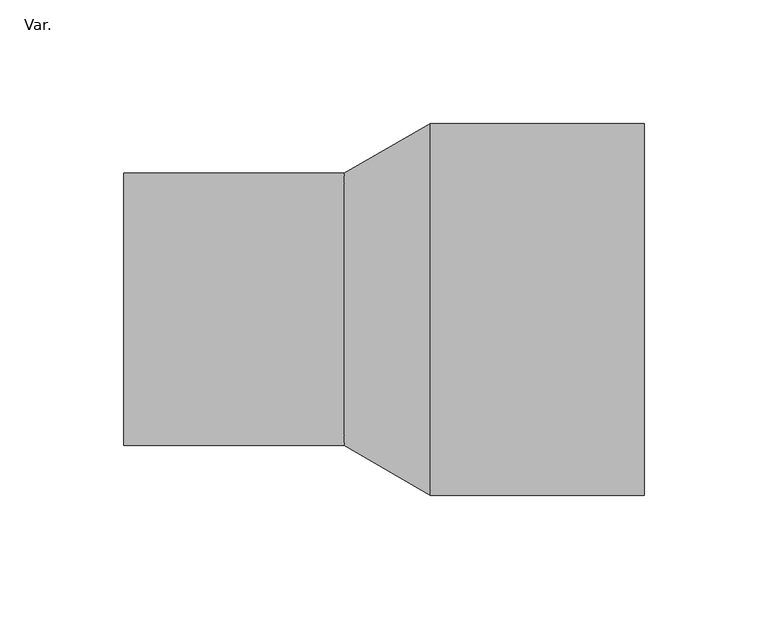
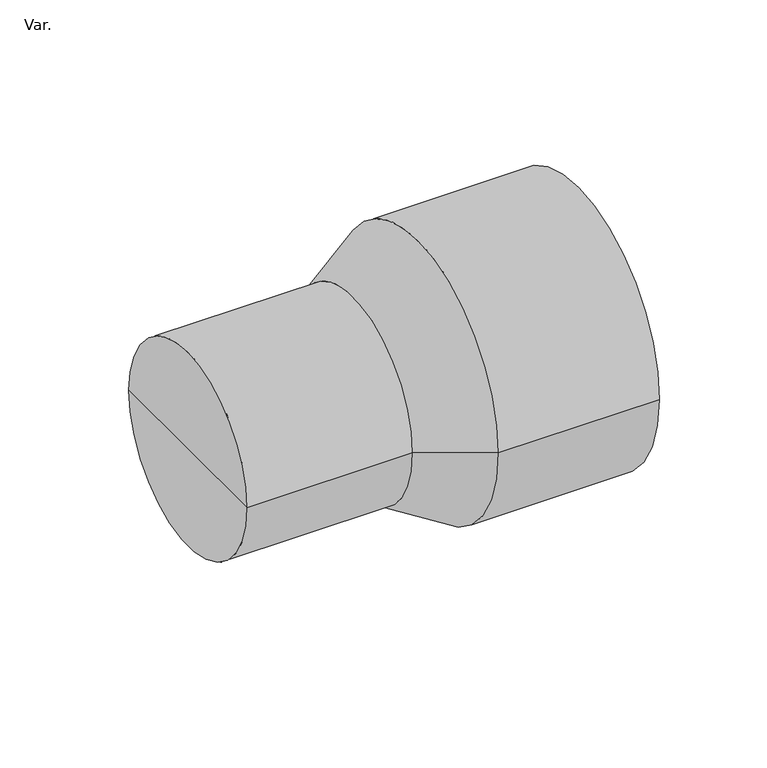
"""IFC4 building model written with IfcOpenShell, lengths in millimetres: pipe fitting geometry, PIF_HDPE retraction socket_Akatherm : Var.."""

import ifcopenshell
import ifcopenshell.guid

model = None  # the IFC model being written
_history = None  # IfcOwnerHistory: only IFC2X3 demands one
_inside = {}  # id of a spatial element -> (the spatial element, [elements in it])
_under = {}  # id of a project, library or spatial element -> (it, [spatial elements below it])
_declared = {}  # id of a project -> (the project, [libraries it declares])
_typed = {}  # id of a type object -> (the type object, [elements of that type])
_made_of = {}  # id of a material, layer set ... -> (it, [elements and type objects made of it])


def new_model(schema):
    """Start an empty IFC model of exactly this schema.

    Asked for "IFC4X3", IfcOpenShell would pick the latest addendum, in which some entities
    have other attributes; the version numbers below select the first issue.
    IFC2X3 requires an IfcOwnerHistory on every rooted entity: one is made here for all.
    """
    global model, _history
    if schema == "IFC4X3":
        model = ifcopenshell.file(schema_version=(4, 3, 0, 0))
    else:
        model = ifcopenshell.file(schema=schema)
    _inside.clear()
    _under.clear()
    _declared.clear()
    _typed.clear()
    _made_of.clear()
    _history = None
    if model.schema == "IFC2X3":
        org = make("IfcOrganization", Name="unknown")
        user = make(
            "IfcPersonAndOrganization",
            ThePerson=make("IfcPerson", FamilyName="unknown"),
            TheOrganization=org,
        )
        app = make(
            "IfcApplication",
            ApplicationDeveloper=org,
            Version="unknown",
            ApplicationFullName="unknown",
            ApplicationIdentifier="unknown",
        )
        _history = make(
            "IfcOwnerHistory",
            OwningUser=user,
            OwningApplication=app,
            ChangeAction="ADDED",
            CreationDate=0,
        )
    return model


def make(cls, **values):
    """One entity of the class cls with the attributes given. An attribute that is None is left unset."""
    return model.create_entity(
        cls, **{name: value for name, value in values.items() if value is not None}
    )


def rooted(cls, **values):
    """An entity with a GlobalId (a new one), such as an element, a storey or a relation."""
    return make(cls, GlobalId=ifcopenshell.guid.new(), OwnerHistory=_history, **values)


def si_unit(unit_type, name, prefix=None):
    """IfcSIUnit, for example si_unit("LENGTHUNIT", "METRE", prefix="MILLI")."""
    return make("IfcSIUnit", UnitType=unit_type, Prefix=prefix, Name=name)


def assignment(units):
    """IfcUnitAssignment: the units of a project."""
    return None if units is None else make("IfcUnitAssignment", Units=units)


def point(xyz):
    """IfcCartesianPoint."""
    return None if xyz is None else make("IfcCartesianPoint", Coordinates=xyz)


def direction(xyz):
    """IfcDirection."""
    return None if xyz is None else make("IfcDirection", DirectionRatios=xyz)


def frame(location, z_axis=None, x_axis=None):
    """IfcAxis2Placement3D, a coordinate frame: its origin and axes. An axis left out is left unset."""
    return make(
        "IfcAxis2Placement3D",
        Location=point(location),
        Axis=direction(z_axis),
        RefDirection=direction(x_axis),
    )


def origin():
    """The frame at (0, 0, 0) with its axes left unset."""
    return frame((0.0, 0.0, 0.0))


def place(relative_to, where):
    """IfcLocalPlacement: puts the frame where relative to a parent placement (None: the world)."""
    return make(
        "IfcLocalPlacement", PlacementRelTo=relative_to, RelativePlacement=where
    )


def context(
    kind, dimensions, precision=None, world=None, true_north=None, identifier=None
):
    """IfcGeometricRepresentationContext, for example the 3D "Model" context."""
    return make(
        "IfcGeometricRepresentationContext",
        ContextIdentifier=identifier,
        ContextType=kind,
        CoordinateSpaceDimension=dimensions,
        Precision=precision,
        WorldCoordinateSystem=world,
        TrueNorth=true_north,
    )


def project(units=None, contexts=None):
    """IfcProject with its units and contexts."""
    return rooted(
        "IfcProject",
        Name="project",
        RepresentationContexts=contexts,
        UnitsInContext=assignment(units),
    )


def spatial(cls, under=None, at=None, **own):
    """A site, building, storey or space (cls), placed at a placement, below another one or the project."""
    s = rooted(cls, ObjectPlacement=at, **own)
    if under is not None:
        _under.setdefault(under.id(), (under, []))[1].append(s)
    return s


def polyline(points):
    """IfcPolyline through the points."""
    return make("IfcPolyline", Points=[point(p) for p in points])


def circle_curve(where, radius):
    """IfcCircle in the frame where."""
    return make("IfcCircle", Position=where, Radius=radius)


def shape(context_of_items, identifier, shape_type, items):
    """IfcShapeRepresentation: the items that make up one representation, for example the "Body"."""
    return make(
        "IfcShapeRepresentation",
        ContextOfItems=context_of_items,
        RepresentationIdentifier=identifier,
        RepresentationType=shape_type,
        Items=items,
    )


def source(mapping_origin, context_of_items, identifier, shape_type, items):
    """IfcRepresentationMap: a shape defined once, which mapped items show again and again."""
    return make(
        "IfcRepresentationMap",
        MappingOrigin=mapping_origin,
        MappedRepresentation=shape(context_of_items, identifier, shape_type, items),
    )


def transform(
    local_origin,
    x_axis=None,
    y_axis=None,
    z_axis=None,
    scale=None,
    scale2=None,
    scale3=None,
    uniform=True,
):
    """IfcCartesianTransformationOperator3D, or its non-uniform kind. x_axis, y_axis, z_axis: its Axis1, 2, 3."""
    if uniform:
        return make(
            "IfcCartesianTransformationOperator3D",
            Axis1=direction(x_axis),
            Axis2=direction(y_axis),
            LocalOrigin=point(local_origin),
            Scale=scale,
            Axis3=direction(z_axis),
        )
    return make(
        "IfcCartesianTransformationOperator3DnonUniform",
        Axis1=direction(x_axis),
        Axis2=direction(y_axis),
        LocalOrigin=point(local_origin),
        Scale=scale,
        Axis3=direction(z_axis),
        Scale2=scale2,
        Scale3=scale3,
    )


def mapped(mapping_source, mapping_target):
    """IfcMappedItem: shows the shape of a source again, moved by a transform."""
    return make(
        "IfcMappedItem", MappingSource=mapping_source, MappingTarget=mapping_target
    )


def made_of(thing, what):
    """Note that an element or type object is made of a material, layer set ...; save() writes the relation."""
    if what is not None:
        _made_of.setdefault(what.id(), (what, []))[1].append(thing)
    return thing


def element(
    cls,
    number,
    at=None,
    inside=None,
    cuts=None,
    type_object=None,
    material=None,
    context=None,
    identifier="Body",
    shape_type=None,
    held_by="IfcProductDefinitionShape",
    body=None,
    shapes=None,
    **own,
):
    """One element of the class cls, such as IfcWall. Its Tag is "e" and its number.

    at: its placement. inside: the storey or other place that contains it. cuts: it is an
    opening in that element (IfcRelVoidsElement). A single representation is given by context,
    identifier, shape_type and body (its items); several are given by shapes. held_by: the class
    of the entity that holds the representations. save() writes the other relations.
    """
    e = rooted(cls, Tag="e%d" % number, ObjectPlacement=at, **own)
    if body is not None:
        shapes = [shape(context, identifier, shape_type, body)]
    if shapes is not None:
        e.Representation = make(held_by, Representations=shapes)
    if inside is not None:
        _inside.setdefault(inside.id(), (inside, []))[1].append(e)
    if cuts is not None:
        rooted(
            "IfcRelVoidsElement", RelatingBuildingElement=cuts, RelatedOpeningElement=e
        )
    if type_object is not None:
        _typed.setdefault(type_object.id(), (type_object, []))[1].append(e)
    return made_of(e, material)


def aggregate(whole, parts):
    """IfcRelAggregates: a whole, such as a stair, and the parts it consists of."""
    return rooted("IfcRelAggregates", RelatingObject=whole, RelatedObjects=parts)


def save(model, path):
    """Write the relations noted so far, then the file.

    IfcRelAggregates (storeys below a building ...), IfcRelContainedInSpatialStructure (elements
    in a storey), IfcRelDefinesByType, IfcRelAssociatesMaterial and IfcRelDeclares: one each for
    every whole, place, type object, material and project.
    """
    for whole, parts in _under.values():
        aggregate(whole, parts)
    for where, things in _inside.values():
        rooted(
            "IfcRelContainedInSpatialStructure",
            RelatedElements=things,
            RelatingStructure=where,
        )
    for kind, things in _typed.values():
        rooted("IfcRelDefinesByType", RelatedObjects=things, RelatingType=kind)
    for what, things in _made_of.values():
        rooted("IfcRelAssociatesMaterial", RelatedObjects=things, RelatingMaterial=what)
    for by, libraries in _declared.values():
        rooted("IfcRelDeclares", RelatingContext=by, RelatedDefinitions=libraries)
    model.write(path)


def plane_surface(at):
    """IfcPlane: the flat surface through the origin of the frame at, square to its z axis."""
    return make("IfcPlane", Position=at)


def cylinder_surface(at, radius):
    """IfcCylindricalSurface: all points at the distance radius from the z axis of the frame at."""
    return make("IfcCylindricalSurface", Position=at, Radius=radius)


def revolved_surface(curve, axis_point, axis_direction):
    """IfcSurfaceOfRevolution: the curve turned about the line through axis_point along axis_direction."""
    return make(
        "IfcSurfaceOfRevolution",
        SweptCurve=make("IfcArbitraryOpenProfileDef", ProfileType="CURVE", Curve=curve),
        AxisPosition=make("IfcAxis1Placement", Location=point(axis_point), Axis=direction(axis_direction)),
    )


def advanced_brep(points, edges, surfaces, faces):
    """IfcAdvancedBrep: a solid bounded by faces that lie on surfaces and meet in shared edges.

    An edge is (start, end): straight between two places in points (the first is 0);
    or (start, end, curve); or (start, end, curve, False) where it runs against its curve.
    A face is (place in surfaces, loops), or (place, loops, False) where it looks against
    its surface's normal. A loop lists edges by number (the first is 1), with a minus sign
    where the edge is run from its end to its start. The first loop is the outer one.
    """
    corners = [point(p) for p in points]
    vertices = [make("IfcVertexPoint", VertexGeometry=c) for c in corners]
    made = []
    for start, end, *more in edges:
        made.append(
            make(
                "IfcEdgeCurve",
                EdgeStart=vertices[start],
                EdgeEnd=vertices[end],
                EdgeGeometry=more[0] if more else make("IfcPolyline", Points=[corners[start], corners[end]]),
                SameSense=more[1] if len(more) > 1 else True,
            )
        )
    hull = []
    for where, loops, *sense in faces:
        bounds = []
        for j, loop in enumerate(loops):
            ring = [make("IfcOrientedEdge", EdgeElement=made[abs(k) - 1], Orientation=k > 0) for k in loop]
            bounds.append(
                make(
                    "IfcFaceOuterBound" if j == 0 else "IfcFaceBound",
                    Bound=make("IfcEdgeLoop", EdgeList=ring),
                    Orientation=True,
                )
            )
        hull.append(make("IfcAdvancedFace", Bounds=bounds, FaceSurface=surfaces[where], SameSense=sense[0] if sense else True))
    return make("IfcAdvancedBrep", Outer=make("IfcClosedShell", CfsFaces=hull))


def var_7bcffa66(model_context):
    return source(origin(), model_context, "Body", "AdvancedBrep", [
        advanced_brep(
        [(105.0, -75.0, 0.0), (105.0, 75.0, 0.0), (105.0, 0.0, 0.0), (18.7, -75.0, 0.0), (18.7, 75.0, 0.0), (-16.0, -55.0, 0.0), (-16.0, 55.0, 0.0), (-105.0, -55.0, 0.0), (-105.0, 55.0, 0.0), (-105.0, 0.0, 0.0)],
        [
            (0, 1, circle_curve(frame((105.0, 0.0, 0.0), z_axis=(1.0, 0.0, 0.0), x_axis=(0.0, 1.0, 0.0)), 75.0)),
            (1, 2),
            (2, 0),
            (1, 0, circle_curve(frame((105.0, 0.0, 0.0), z_axis=(1.0, 0.0, 0.0), x_axis=(0.0, 1.0, 0.0)), 75.0)),
            (3, 4, circle_curve(frame((18.7, 0.0, 0.0), z_axis=(1.0, 0.0, 0.0), x_axis=(0.0, 1.0, 0.0)), 75.0)),
            (4, 1),
            (0, 3),
            (4, 3, circle_curve(frame((18.7, 0.0, 0.0), z_axis=(1.0, 0.0, 0.0), x_axis=(0.0, 1.0, 0.0)), 75.0)),
            (5, 6, circle_curve(frame((-16.0, 0.0, 0.0), z_axis=(1.0, 0.0, 0.0), x_axis=(0.0, 1.0, 0.0)), 55.0)),
            (6, 4),
            (3, 5),
            (6, 5, circle_curve(frame((-16.0, 0.0, 0.0), z_axis=(1.0, 0.0, 0.0), x_axis=(0.0, 1.0, 0.0)), 55.0)),
            (7, 8, circle_curve(frame((-105.0, 0.0, 0.0), z_axis=(1.0, 0.0, 0.0), x_axis=(0.0, 1.0, 0.0)), 55.0)),
            (8, 6),
            (5, 7),
            (8, 7, circle_curve(frame((-105.0, 0.0, 0.0), z_axis=(1.0, 0.0, 0.0), x_axis=(0.0, 1.0, 0.0)), 55.0)),
            (9, 8),
            (7, 9),
        ],
        [
            plane_surface(frame((105.0, 0.0, 0.0), z_axis=(1.0, 0.0, 0.0), x_axis=(0.0, 1.0, 0.0))),
            cylinder_surface(frame((-140.0, 0.0, 0.0), z_axis=(-1.0, 0.0, 0.0), x_axis=(0.0, 1.0, 0.0)), 75.0),
            revolved_surface(polyline([(18.7, 75.0, 0.0), (-16.0, 55.0, 0.0)]), (-140.0, 0.0, 0.0), (-1.0, 0.0, 0.0)),
            cylinder_surface(frame((-140.0, 0.0, 0.0), z_axis=(-1.0, 0.0, 0.0), x_axis=(0.0, 1.0, 0.0)), 55.0),
            plane_surface(frame((-105.0, 0.0, 0.0), z_axis=(-1.0, 0.0, 0.0), x_axis=(0.0, 1.0, 0.0))),
        ],
        [
            (0, [[1, 2, 3]]),
            (0, [[4, -3, -2]]),
            (1, [[5, 6, -1, 7]]),
            (1, [[8, -7, -4, -6]]),
            (2, [[9, 10, -5, 11]]),
            (2, [[12, -11, -8, -10]]),
            (3, [[13, 14, -9, 15]]),
            (3, [[16, -15, -12, -14]]),
            (4, [[17, -13, 18]]),
            (4, [[-18, -16, -17]]),
        ],
    ),
    ])


if __name__ == "__main__":
    model = new_model("IFC4")
    model_context = context("Model", 3, world=origin())
    ifc_project = project(units=[si_unit("LENGTHUNIT", "METRE", prefix="MILLI")], contexts=[model_context])
    site = spatial("IfcSite", under=ifc_project)
    building = spatial("IfcBuilding", under=site)
    placement = place(None, origin())
    var_shape = var_7bcffa66(model_context)
    element("IfcPipeFitting", 1, ObjectType="PIF_HDPE retraction socket_Akatherm : Var.", at=placement, inside=building, context=model_context, shape_type="MappedRepresentation", body=[
        mapped(var_shape, transform((0.0, 0.0, 0.0), x_axis=(1.0, 0.0, 0.0), y_axis=(0.0, 1.0, 0.0), z_axis=(0.0, 0.0, 1.0))),
    ])
    save(model, "model.ifc")
